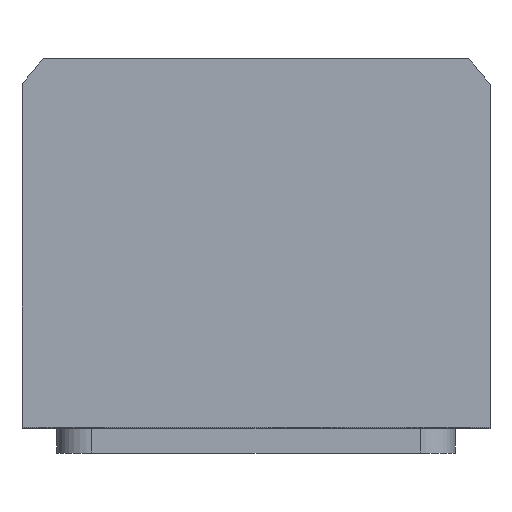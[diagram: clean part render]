
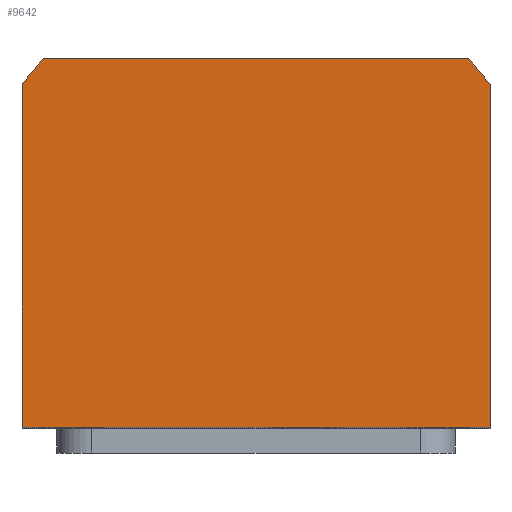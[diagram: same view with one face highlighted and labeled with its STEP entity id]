
A CAD part, top view. The second image highlights one B-rep face of the part: STEP entity #9642.
In plain terms, the highlighted planar face has unit normal (0, 0, 1).
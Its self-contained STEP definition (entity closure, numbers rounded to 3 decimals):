
#311 = EDGE_CURVE ( 'NONE', #11002, #8336, #8057, .T. ) ;
#347 = VECTOR ( 'NONE', #4473, 1000. ) ;
#497 = CARTESIAN_POINT ( 'NONE',  ( -42.688, 40., 80. ) ) ;
#1128 = CARTESIAN_POINT ( 'NONE',  ( 0., 0., 80. ) ) ;
#1268 = VERTEX_POINT ( 'NONE', #7603 ) ;
#1321 = DIRECTION ( 'NONE',  ( 1., 0., 0. ) ) ;
#1555 = LINE ( 'NONE', #3496, #347 ) ;
#1956 = VECTOR ( 'NONE', #9038, 1000. ) ;
#2209 = CARTESIAN_POINT ( 'NONE',  ( 47., -34., 80. ) ) ;
#2461 = ORIENTED_EDGE ( 'NONE', *, *, #10458, .T. ) ;
#2921 = DIRECTION ( 'NONE',  ( 1., 0., 0. ) ) ;
#2962 = VERTEX_POINT ( 'NONE', #497 ) ;
#2981 = CARTESIAN_POINT ( 'NONE',  ( 0., 0., 80. ) ) ;
#3056 = DIRECTION ( 'NONE',  ( 1., 0., 0. ) ) ;
#3203 = EDGE_CURVE ( 'NONE', #1268, #2962, #5822, .T. ) ;
#3206 = ORIENTED_EDGE ( 'NONE', *, *, #3220, .T. ) ;
#3220 = EDGE_CURVE ( 'NONE', #8336, #3532, #1555, .T. ) ;
#3222 = ORIENTED_EDGE ( 'NONE', *, *, #311, .T. ) ;
#3439 = EDGE_LOOP ( 'NONE', ( #3222, #3206, #9140, #3792, #2461, #9565 ) ) ;
#3496 = CARTESIAN_POINT ( 'NONE',  ( 47., 34.832, 80. ) ) ;
#3532 = VERTEX_POINT ( 'NONE', #9149 ) ;
#3625 = EDGE_CURVE ( 'NONE', #9970, #11002, #8497, .T. ) ;
#3730 = DIRECTION ( 'NONE',  ( 1., 0., 0. ) ) ;
#3745 = CARTESIAN_POINT ( 'NONE',  ( 0., 0., 80. ) ) ;
#3792 = ORIENTED_EDGE ( 'NONE', *, *, #3203, .T. ) ;
#4212 = VECTOR ( 'NONE', #7020, 1000. ) ;
#4473 = DIRECTION ( 'NONE',  ( 0., 1., 0. ) ) ;
#4505 = AXIS2_PLACEMENT_3D ( 'NONE', #1128, #8006, #3730 ) ;
#4745 = PLANE ( 'NONE',  #7956 ) ;
#4980 = EDGE_CURVE ( 'NONE', #3532, #1268, #9950, .T. ) ;
#5442 = AXIS2_PLACEMENT_3D ( 'NONE', #3745, #9737, #2921 ) ;
#5822 = LINE ( 'NONE', #7770, #4212 ) ;
#5863 = CIRCLE ( 'NONE', #5442, 58.5 ) ;
#7020 = DIRECTION ( 'NONE',  ( -1., 0., 0. ) ) ;
#7603 = CARTESIAN_POINT ( 'NONE',  ( 42.688, 40., 80. ) ) ;
#7770 = CARTESIAN_POINT ( 'NONE',  ( -42.688, 40., 80. ) ) ;
#7956 = AXIS2_PLACEMENT_3D ( 'NONE', #2981, #10769, #1321 ) ;
#8006 = DIRECTION ( 'NONE',  ( 0., 0., 1. ) ) ;
#8057 = LINE ( 'NONE', #2209, #8460 ) ;
#8336 = VERTEX_POINT ( 'NONE', #10025 ) ;
#8460 = VECTOR ( 'NONE', #3056, 1000. ) ;
#8497 = LINE ( 'NONE', #9977, #1956 ) ;
#9038 = DIRECTION ( 'NONE',  ( 0., -1., 0. ) ) ;
#9140 = ORIENTED_EDGE ( 'NONE', *, *, #4980, .T. ) ;
#9149 = CARTESIAN_POINT ( 'NONE',  ( 47., 34.832, 80. ) ) ;
#9565 = ORIENTED_EDGE ( 'NONE', *, *, #3625, .T. ) ;
#9597 = CARTESIAN_POINT ( 'NONE',  ( -47., 34.832, 80. ) ) ;
#9642 = ADVANCED_FACE ( 'NONE', ( #10914 ), #4745, .T. ) ;
#9737 = DIRECTION ( 'NONE',  ( 0., 0., 1. ) ) ;
#9950 = CIRCLE ( 'NONE', #4505, 58.5 ) ;
#9970 = VERTEX_POINT ( 'NONE', #9597 ) ;
#9977 = CARTESIAN_POINT ( 'NONE',  ( -47., -34., 80. ) ) ;
#10025 = CARTESIAN_POINT ( 'NONE',  ( 47., -34., 80. ) ) ;
#10394 = CARTESIAN_POINT ( 'NONE',  ( -47., -34., 80. ) ) ;
#10458 = EDGE_CURVE ( 'NONE', #2962, #9970, #5863, .T. ) ;
#10769 = DIRECTION ( 'NONE',  ( 0., 0., 1. ) ) ;
#10914 = FACE_OUTER_BOUND ( 'NONE', #3439, .T. ) ;
#11002 = VERTEX_POINT ( 'NONE', #10394 ) ;
